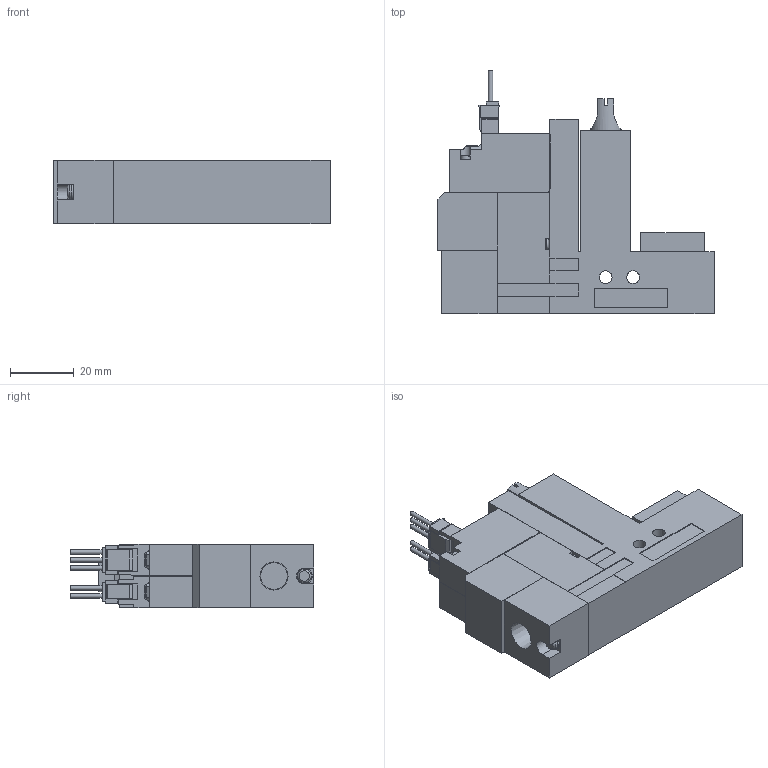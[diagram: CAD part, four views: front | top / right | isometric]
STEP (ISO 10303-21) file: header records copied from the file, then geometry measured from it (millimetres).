
FILE_DESCRIPTION(('STEP AP203'),'1');
FILE_NAME('ZL5WLR.stp','2025-02-17T00:00:50',(' '),(' '),'Spatial InterOp 3D',' ',' ');
FILE_SCHEMA(('CONFIG_CONTROL_DESIGN'));
Length unit declared in the file: millimetre
Products named in the file (5): BMC22S※※※※ZL5WLR; Solenoid valve W; Pressure sensor ZL; Unit L; Base SR10R
Assembly tree (4 placements, depth 2):
  BMC22S※※※※ZL5WLR
    Solenoid valve W
    Pressure sensor ZL
    Unit L
    Base SR10R
Bounding box: 86.6 x 76.45 x 20 mm (x, y, z)
Volume: 77416 mm3; surface area: 21770.4 mm2
Topology: 4 solids, 4 shells, 330 faces, 886 edges, 585 vertices
Faces by surface type: plane 288, cylinder 33, cone 6, torus 3
Full cylindrical faces by diameter (mm): 1.4 x5, 2.5 x1, 3 x4, 3.5 x4, 3.6 x1, 4 x2, 4.134 x1, 6 x1
Entity records: 10309 total; most frequent: CARTESIAN_POINT 1857, ORIENTED_EDGE 1698, DIRECTION 1621, EDGE_CURVE 849, LINE 739, VECTOR 739, VERTEX_POINT 577, AXIS2_PLACEMENT_3D 441
